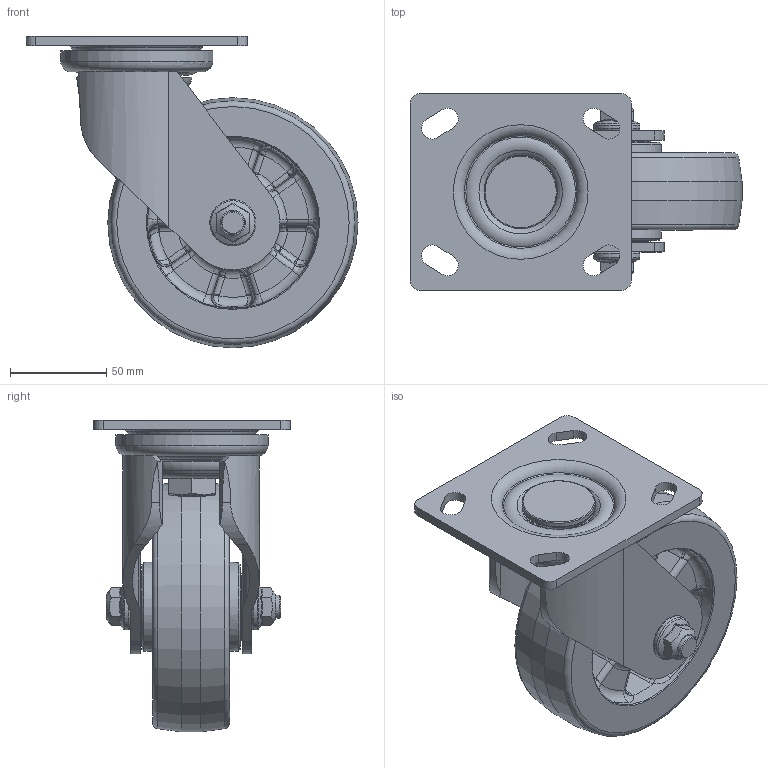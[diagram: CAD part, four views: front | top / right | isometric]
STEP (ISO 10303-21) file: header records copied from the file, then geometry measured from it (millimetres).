
FILE_DESCRIPTION(/* description */ (''),/* implementation_level */ '2;1');
FILE_NAME(/* name */ 'PM-130-ASF.step',/* time_stamp */ '2026-01-27T08:45:01+09:00',/* author */ (''),/* organization */ (''),/* preprocessor_version */ 'ST-DEVELOPER v20.1',/* originating_system */ 'Autodesk Translation Framework v14.24.0.0',/* authorisation */ '');
FILE_SCHEMA (('AUTOMOTIVE_DESIGN { 1 0 10303 214 3 1 1 }'));
Products named in the file (1): PM-130A-SF
Bounding box: 172.5 x 102 x 162 mm (x, y, z)
Volume: 566143.6 mm3; surface area: 153832.2 mm2
Topology: 7 solids, 7 shells, 558 faces, 1384 edges, 815 vertices
Faces by surface type: bspline 214, plane 125, cylinder 92, torus 77, cone 50
Full cylindrical faces by diameter (mm): 12 x1, 16 x2, 18 x2, 21.5 x1, 24 x2, 30.5 x2, 35 x2, 35.18 x2, 38 x1, 69 x1, 79 x1, 130 x1
Entity records: 36432 total; most frequent: CARTESIAN_POINT 24360, ORIENTED_EDGE 2706, DIRECTION 2234, EDGE_CURVE 1353, AXIS2_PLACEMENT_3D 978, VERTEX_POINT 824, EDGE_LOOP 597, CIRCLE 582
